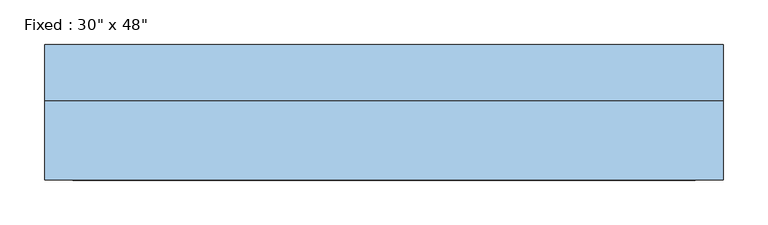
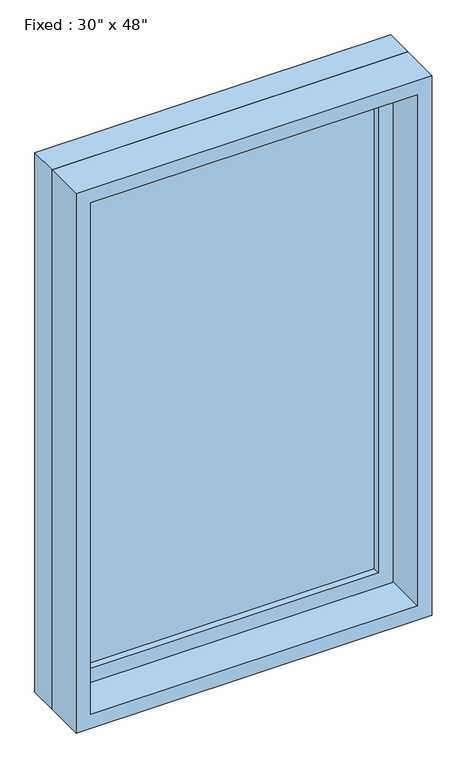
"""IFC4 building model written with IfcOpenShell, lengths in millimetres: window geometry."""

from ifc_helpers import new_model, si_unit, frame, origin, place, context, project, spatial, polyline, outline, extrude, source, transform, mapped, element, save


def window_7c4138b5(model_context):
    return source(origin(), model_context, "Body", "SweptSolid", [
        extrude(outline(polyline([(279.4, 28.575), (-355.6, 28.575), (-355.6, 41.275), (279.4, 41.275), (279.4, 28.575)])), frame((0.0, 0.0, 825.5), z_axis=(0.0, 0.0, 1.0), x_axis=(1.0, 0.0, 0.0)), (0.0, 0.0, 1.0), 1092.2),
        extrude(outline(polyline([(1962.15, -400.05), (781.05, -400.05), (781.05, 323.85), (1962.15, 323.85), (1962.15, -400.05)]), holes=[polyline([(1917.7, -355.6), (1917.7, 279.4), (825.5, 279.4), (825.5, -355.6), (1917.7, -355.6)])]), frame((0.0, 12.7, 0.0), z_axis=(0.0, 1.0, 0.0), x_axis=(0.0, 0.0, 1.0)), (0.0, 0.0, 1.0), 44.45),
        extrude(outline(polyline([(1981.2, -419.1), (762.0, -419.1), (762.0, 342.9), (1981.2, 342.9), (1981.2, -419.1)]), holes=[polyline([(1949.45, -387.35), (1949.45, 311.15), (793.75, 311.15), (793.75, -387.35), (1949.45, -387.35)])]), frame((0.0, -76.2, 0.0), z_axis=(0.0, 1.0, 0.0), x_axis=(0.0, 0.0, 1.0)), (0.0, 0.0, 1.0), 88.9),
        extrude(outline(polyline([(1981.2, 342.9), (1981.2, -419.1), (762.0, -419.1), (762.0, 342.9), (1981.2, 342.9)]), holes=[polyline([(1962.15, 323.85), (781.05, 323.85), (781.05, -400.05), (1962.15, -400.05), (1962.15, 323.85)])]), frame((0.0, 12.7, 0.0), z_axis=(0.0, 1.0, 0.0), x_axis=(0.0, 0.0, 1.0)), (0.0, 0.0, 1.0), 63.5),
    ])


if __name__ == "__main__":
    model = new_model("IFC4")
    model_context = context("Model", 3, world=origin())
    ifc_project = project(units=[si_unit("LENGTHUNIT", "METRE", prefix="MILLI")], contexts=[model_context])
    site = spatial("IfcSite", under=ifc_project)
    building = spatial("IfcBuilding", under=site)
    placement = place(None, origin())
    window_shape = window_7c4138b5(model_context)
    element("IfcWindow", 1, ObjectType="Fixed : 30\" x 48\"", at=placement, inside=building, context=model_context, shape_type="MappedRepresentation", body=[
        mapped(window_shape, transform((0.0, 0.0, 0.0), x_axis=(1.0, 0.0, 0.0), y_axis=(0.0, 1.0, 0.0), z_axis=(0.0, 0.0, 1.0))),
    ])
    save(model, "model.ifc")
